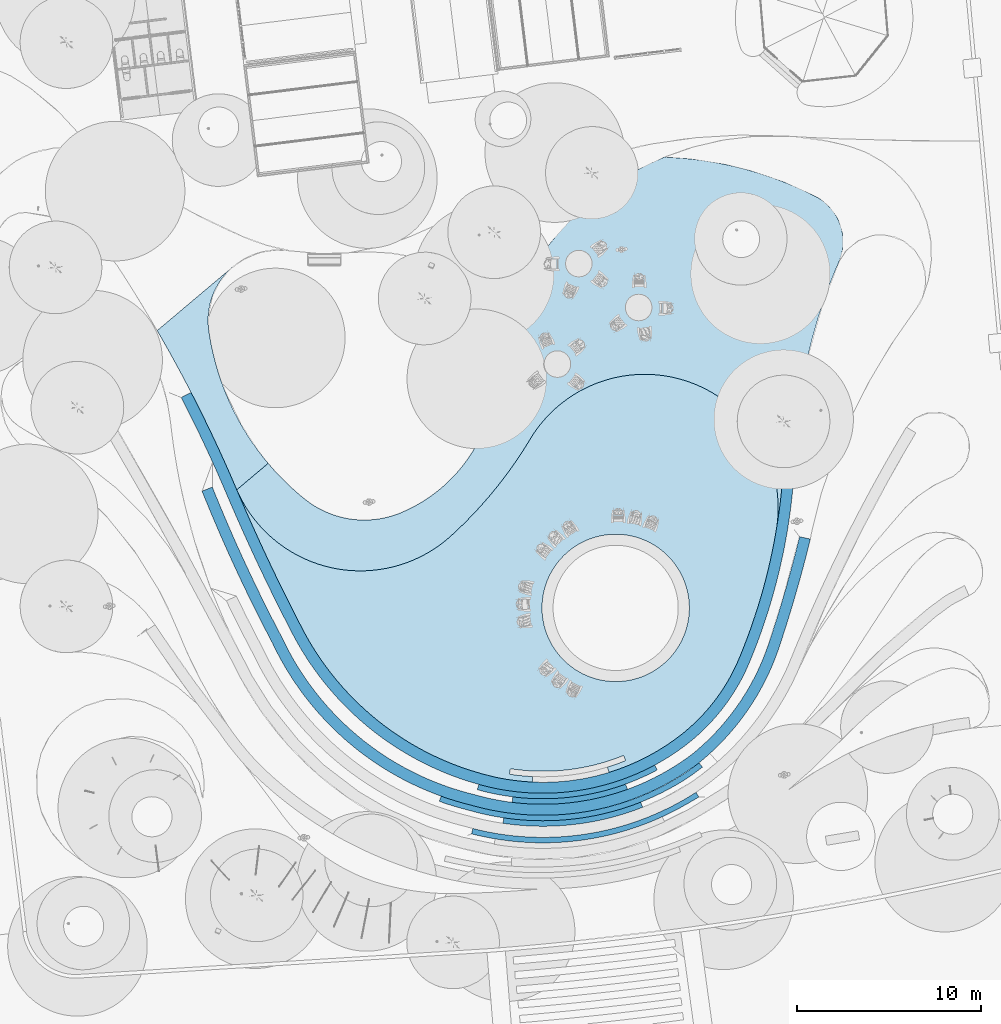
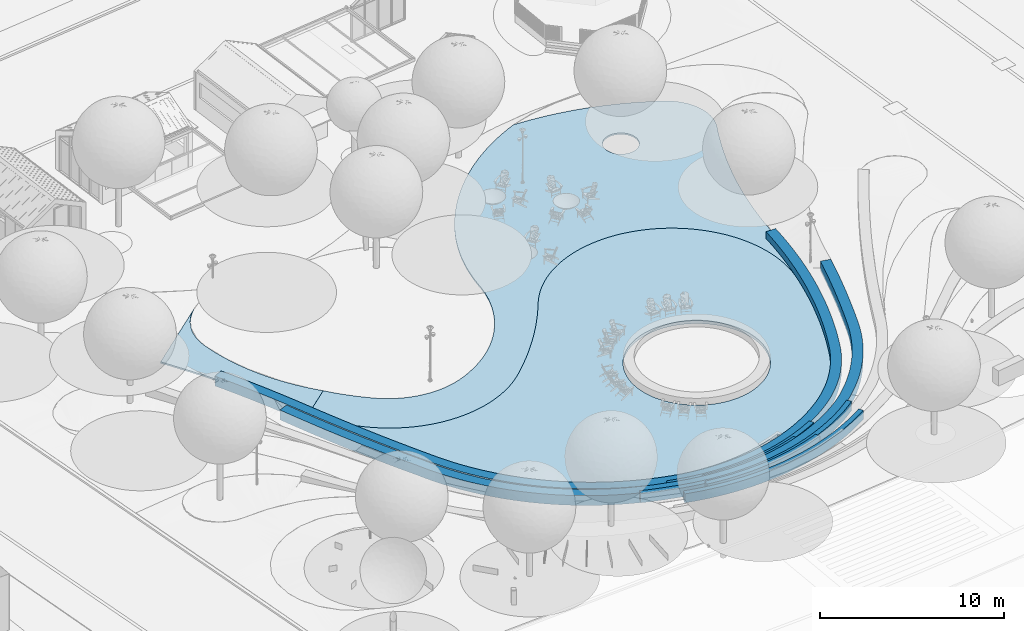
# One storey, part 11 of 75: 10 slabs, 2 openings.
"""IFC2X3 building model written with IfcOpenShell, lengths in metres."""

from ifc_helpers import new_model, entity, si_unit, converted_unit, derived_unit, direction, frame, frame_2d, origin, place, context, subcontext, project, spatial, polyline, circle_curve, ellipse_curve, parameter, trimmed, segment, composite_curve, circle, outline, extrude, material, layer, layer_set, layer_usage, type_object, element, save


model = new_model("IFC2X3")

# Units and contexts
model_context = context("Model", 3, precision=1e-05, world=origin(), true_north=direction((6.123031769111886e-17, 1.0)))
body_context = subcontext(model_context, "Body", "Model", "MODEL_VIEW")
ifc_project = project(units=[si_unit("LENGTHUNIT", "METRE"), si_unit("AREAUNIT", "SQUARE_METRE"), si_unit("VOLUMEUNIT", "CUBIC_METRE"), converted_unit("PLANEANGLEUNIT", "DEGREE", entity("IfcRatioMeasure", 0.017453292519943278), si_unit("PLANEANGLEUNIT", "RADIAN"), dimensions=[0, 0, 0, 0, 0, 0, 0]), si_unit("MASSUNIT", "GRAM", prefix="KILO"), derived_unit("MASSDENSITYUNIT", [(si_unit("MASSUNIT", "GRAM", prefix="KILO"), 1), (si_unit("LENGTHUNIT", "METRE"), -3)]), derived_unit("IONCONCENTRATIONUNIT", [(si_unit("MASSUNIT", "GRAM", prefix="KILO"), 1), (si_unit("LENGTHUNIT", "METRE"), -3)]), derived_unit("MOMENTOFINERTIAUNIT", [(si_unit("LENGTHUNIT", "METRE"), 4)]), si_unit("TIMEUNIT", "SECOND"), si_unit("FREQUENCYUNIT", "HERTZ"), si_unit("THERMODYNAMICTEMPERATUREUNIT", "DEGREE_CELSIUS"), derived_unit("THERMALTRANSMITTANCEUNIT", [(si_unit("MASSUNIT", "GRAM", prefix="KILO"), 1), (si_unit("THERMODYNAMICTEMPERATUREUNIT", "KELVIN"), -1), (si_unit("TIMEUNIT", "SECOND"), -3)]), derived_unit("THERMALCONDUCTANCEUNIT", [(si_unit("MASSUNIT", "GRAM", prefix="KILO"), 1), (si_unit("THERMODYNAMICTEMPERATUREUNIT", "KELVIN"), -1), (si_unit("TIMEUNIT", "SECOND"), -3), (si_unit("LENGTHUNIT", "METRE"), 1)]), derived_unit("VOLUMETRICFLOWRATEUNIT", [(si_unit("LENGTHUNIT", "METRE"), 3), (si_unit("TIMEUNIT", "SECOND"), -1)]), derived_unit("MASSFLOWRATEUNIT", [(si_unit("MASSUNIT", "GRAM", prefix="KILO"), 1), (si_unit("TIMEUNIT", "SECOND"), -1)]), derived_unit("ROTATIONALFREQUENCYUNIT", [(si_unit("TIMEUNIT", "SECOND"), -1)]), si_unit("ELECTRICCURRENTUNIT", "AMPERE"), si_unit("ELECTRICVOLTAGEUNIT", "VOLT"), si_unit("POWERUNIT", "WATT"), si_unit("FORCEUNIT", "NEWTON", prefix="KILO"), si_unit("ILLUMINANCEUNIT", "LUX"), si_unit("LUMINOUSFLUXUNIT", "LUMEN"), si_unit("LUMINOUSINTENSITYUNIT", "CANDELA"), derived_unit("USERDEFINED", [(si_unit("MASSUNIT", "GRAM", prefix="KILO"), -1), (si_unit("LENGTHUNIT", "METRE"), -2), (si_unit("TIMEUNIT", "SECOND"), 3), (si_unit("LUMINOUSFLUXUNIT", "LUMEN"), 1)]), derived_unit("USERDEFINED", [(si_unit("MASSUNIT", "GRAM", prefix="KILO"), 1), (si_unit("TIMEUNIT", "SECOND"), -3), (si_unit("LENGTHUNIT", "METRE"), 3), (si_unit("ELECTRICCURRENTUNIT", "AMPERE"), -2)]), derived_unit("SOUNDPOWERUNIT", [(si_unit("MASSUNIT", "GRAM", prefix="KILO"), 1), (si_unit("TIMEUNIT", "SECOND"), -3), (si_unit("LENGTHUNIT", "METRE"), 2)]), derived_unit("SOUNDPRESSUREUNIT", [(si_unit("MASSUNIT", "GRAM", prefix="KILO"), 1), (si_unit("LENGTHUNIT", "METRE"), -1), (si_unit("TIMEUNIT", "SECOND"), -2)]), derived_unit("LINEARVELOCITYUNIT", [(si_unit("LENGTHUNIT", "METRE"), 1), (si_unit("TIMEUNIT", "SECOND"), -1)]), si_unit("PRESSUREUNIT", "PASCAL"), derived_unit("USERDEFINED", [(si_unit("MASSUNIT", "GRAM", prefix="KILO"), 1), (si_unit("LENGTHUNIT", "METRE"), -2), (si_unit("TIMEUNIT", "SECOND"), -2)]), derived_unit("LINEARFORCEUNIT", [(si_unit("MASSUNIT", "GRAM", prefix="KILO"), 1), (si_unit("TIMEUNIT", "SECOND"), -2)]), derived_unit("PLANARFORCEUNIT", [(si_unit("MASSUNIT", "GRAM", prefix="KILO"), 1), (si_unit("LENGTHUNIT", "METRE"), -1), (si_unit("TIMEUNIT", "SECOND"), -2)]), derived_unit("SPECIFICHEATCAPACITYUNIT", [(si_unit("THERMODYNAMICTEMPERATUREUNIT", "KELVIN"), -1), (si_unit("LENGTHUNIT", "METRE"), 2), (si_unit("TIMEUNIT", "SECOND"), -2)]), derived_unit("HEATINGVALUEUNIT", [(si_unit("LENGTHUNIT", "METRE"), 2), (si_unit("TIMEUNIT", "SECOND"), -2)]), derived_unit("VAPORPERMEABILITYUNIT", [(si_unit("LENGTHUNIT", "METRE"), -1), (si_unit("TIMEUNIT", "SECOND"), 1)]), derived_unit("DYNAMICVISCOSITYUNIT", [(si_unit("MASSUNIT", "GRAM", prefix="KILO"), 1), (si_unit("TIMEUNIT", "SECOND"), -1), (si_unit("LENGTHUNIT", "METRE"), -1)]), derived_unit("THERMALEXPANSIONCOEFFICIENTUNIT", [(si_unit("THERMODYNAMICTEMPERATUREUNIT", "KELVIN"), -1)]), derived_unit("MODULUSOFELASTICITYUNIT", [(si_unit("MASSUNIT", "GRAM", prefix="KILO"), 1), (si_unit("LENGTHUNIT", "METRE"), -1), (si_unit("TIMEUNIT", "SECOND"), -2)]), derived_unit("ISOTHERMALMOISTURECAPACITYUNIT", [(si_unit("LENGTHUNIT", "METRE"), 3), (si_unit("MASSUNIT", "GRAM", prefix="KILO"), -1)]), derived_unit("MOISTUREDIFFUSIVITYUNIT", [(si_unit("TIMEUNIT", "SECOND"), -1), (si_unit("LENGTHUNIT", "METRE"), 2)])], contexts=[model_context])

# Site, building, storey
site_placement = place(None, origin())
site = spatial("IfcSite", under=ifc_project, at=site_placement, Name="Default", CompositionType="ELEMENT")
building_placement = place(site_placement, origin())
building = spatial("IfcBuilding", under=site, at=building_placement, Name="Projeto", CompositionType="ELEMENT")
storey_placement = place(building_placement, origin())
storey = spatial("IfcBuildingStorey", under=building, at=storey_placement, Name="Nível 1", CompositionType="ELEMENT", Elevation=0.0)

# Slab, opening
ifc_material_1 = material(Name="Grama-esmeralda")
ifc_layer_1 = layer(ifc_material_1, 0.04)
ifc_material_2 = material(Name="JA_Solo")
ifc_layer_2 = layer(ifc_material_2, 0.16)
ifc_layer_set_1 = layer_set([ifc_layer_1, ifc_layer_2], Name="Piso:Zoysia japonica")
ifc_layer_usage_1 = layer_usage(ifc_layer_set_1, "AXIS3", "POSITIVE", 0.0)
slab_type_1 = type_object("IfcSlabType", Name="Piso:Zoysia japonica", PredefinedType="FLOOR", material=ifc_layer_set_1)
slab_1_placement = place(storey_placement, frame((-11.850127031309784, -9.999738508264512, -2.4499999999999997)))
slab_1 = element("IfcSlab", 1, at=slab_1_placement, inside=storey, type_object=slab_type_1, material=ifc_layer_usage_1, Name="Piso:Zoysia japonica", ObjectType="Piso:Zoysia japonica", PredefinedType="FLOOR", context=body_context, shape_type="SweptSolid", body=[
    extrude(outline(composite_curve([segment(trimmed(circle_curve(frame_2d((16.639981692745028, 7.871754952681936), x_axis=(-1.0, 0.0)), 31.684656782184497), [parameter(9.543661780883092)], [parameter(22.71125249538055)], True, "PARAMETER"), True, "CONTINUOUS"), segment(trimmed(circle_curve(frame_2d((-3.0176330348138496, -0.35573994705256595), x_axis=(-1.0, 0.0)), 10.3747180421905), [parameter(22.71125249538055)], [parameter(52.74487293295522)], True, "PARAMETER"), True, "CONTINUOUS"), segment(trimmed(circle_curve(frame_2d((-1.9332866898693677, 1.1035502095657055), x_axis=(-1.0, 0.0)), 12.19267937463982), [parameter(52.84036237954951)], [parameter(72.9146469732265)], True, "PARAMETER"), True, "CONTINUOUS"), segment(polyline([(-5.51544685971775, -10.551043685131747), (-5.427308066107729, -10.264283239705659)]), True, "CONTINUOUS"), segment(trimmed(circle_curve(frame_2d((-1.9332866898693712, 1.1035502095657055), x_axis=(-1.0, 0.0)), 11.892679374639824), [parameter(67.8337120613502)], [parameter(72.91464697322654)], True, "PARAMETER"), False, "CONTINUOUS"), segment(polyline([(-6.4203464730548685, -9.910173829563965), (-6.307157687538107, -9.632346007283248)]), True, "CONTINUOUS"), segment(trimmed(circle_curve(frame_2d((-1.933286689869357, 1.103550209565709), x_axis=(-1.0, 0.0)), 11.592679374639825), [parameter(67.83371206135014)], [parameter(98.81300573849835)], True, "PARAMETER"), True, "CONTINUOUS"), segment(polyline([(-0.15717050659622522, -10.35226169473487), (-0.1112074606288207, -10.648719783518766)]), True, "CONTINUOUS"), segment(trimmed(circle_curve(frame_2d((-1.9332866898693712, 1.1035502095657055), x_axis=(-1.0, 0.0)), 11.892679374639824), [parameter(92.74757328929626)], [parameter(98.81300573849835)], True, "PARAMETER"), False, "CONTINUOUS"), segment(polyline([(-1.363201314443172, -10.775457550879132), (-1.3488205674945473, -11.075112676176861)]), True, "CONTINUOUS"), segment(trimmed(circle_curve(frame_2d((-1.9332866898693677, 1.1035502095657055), x_axis=(-1.0, 0.0)), 12.19267937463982), [parameter(92.7475732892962)], [parameter(106.53200961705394)], True, "PARAMETER"), True, "CONTINUOUS"), segment(trimmed(circle_curve(frame_2d((-2.778103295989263, 4.512307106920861), x_axis=(-1.0, 0.0)), 15.701730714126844), [parameter(105.9478935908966)], [parameter(152.50265419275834)], True, "PARAMETER"), True, "CONTINUOUS"), segment(trimmed(circle_curve(frame_2d((-83.33529151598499, 46.44298205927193), x_axis=(-1.0, 0.0)), 106.51826046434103), [parameter(152.50265419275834)], [parameter(156.98796930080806)], True, "PARAMETER"), True, "CONTINUOUS"), segment(trimmed(circle_curve(frame_2d((7.989180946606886, 7.722558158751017), x_axis=(-1.0, 0.0)), 7.324636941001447), [parameter(47.61549531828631)], [parameter(156.5045093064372)], True, "PARAMETER"), False, "CONTINUOUS"), segment(trimmed(circle_curve(frame_2d((18.757359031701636, 19.521624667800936), x_axis=(-1.0, 0.0)), 23.29872939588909), [parameter(30.922731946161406)], [parameter(47.615495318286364)], True, "PARAMETER"), False, "CONTINUOUS"), segment(trimmed(circle_curve(frame_2d((-7.452594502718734, 3.8211642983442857), x_axis=(-1.0, 0.0)), 7.253948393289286), [parameter(210.9227319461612)], [parameter(9.543661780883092)], True, "PARAMETER"), True, "CONTINUOUS")], self_intersect=False)), frame((14.706542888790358, 11.075112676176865, 0.19999999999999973), z_axis=(0.0, 0.0, -1.0), x_axis=(-1.0, 0.0, 0.0)), (0.0, 0.0, 1.0), 0.19999999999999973),
])
opening_1_placement = place(slab_1_placement, origin())
element("IfcOpeningElement", 2, at=opening_1_placement, cuts=slab_1, Name="Piso:Zoysia japonica", ObjectType="Opening", context=body_context, shape_type="SweptSolid", body=[
    extrude(circle(Radius=4.0, at=frame_2d((0.0, -6.497202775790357e-15), x_axis=(1.0, 0.0))), frame((20.58601131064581, 9.460384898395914, 0.19999999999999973), z_axis=(0.0, 0.0, -1.0), x_axis=(1.0, 0.0, 0.0)), (0.0, 0.0, 1.0), 0.2),
])

# Slabs
ifc_material_3 = material(Name="cacao")
ifc_layer_3 = layer(ifc_material_3, 0.65)
ifc_layer_set_2 = layer_set([ifc_layer_3], Name="Piso:Banco de concreto")
ifc_layer_usage_2 = layer_usage(ifc_layer_set_2, "AXIS3", "POSITIVE", 0.0)
slab_type_2 = type_object("IfcSlabType", Name="Piso:Banco de concreto", PredefinedType="FLOOR", material=ifc_layer_set_2)
slab_2_placement = place(storey_placement, frame((-14.86650121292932, -10.613420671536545, -2.4499999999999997)))
element("IfcSlab", 3, at=slab_2_placement, inside=storey, type_object=slab_type_2, material=ifc_layer_usage_2, Name="Piso:Banco de concreto", ObjectType="Piso:Banco de concreto", PredefinedType="FLOOR", context=body_context, shape_type="SweptSolid", body=[
    extrude(outline(composite_curve([segment(trimmed(circle_curve(frame_2d((15.590078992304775, 8.67065615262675), x_axis=(-1.0, 0.0)), 32.28465678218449), [parameter(2.09422113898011)], [parameter(22.71125249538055)], True, "PARAMETER"), True, "CONTINUOUS"), segment(trimmed(circle_curve(frame_2d((-4.067535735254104, 0.4431612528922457), x_axis=(-1.0, 0.0)), 10.9747180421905), [parameter(22.71125249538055)], [parameter(52.74748853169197)], True, "PARAMETER"), True, "CONTINUOUS"), segment(trimmed(circle_curve(frame_2d((-2.9831893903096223, 1.9024514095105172), x_axis=(-1.0, 0.0)), 12.792679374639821), [parameter(52.838127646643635)], [parameter(106.51827536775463)], True, "PARAMETER"), True, "CONTINUOUS"), segment(trimmed(circle_curve(frame_2d((-3.828005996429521, 5.311208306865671), x_axis=(-1.0, 0.0)), 16.301730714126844), [parameter(105.95861482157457)], [parameter(152.50265419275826)], True, "PARAMETER"), True, "CONTINUOUS"), segment(trimmed(circle_curve(frame_2d((-84.38519421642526, 47.241883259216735), x_axis=(-1.0, 0.0)), 107.11826046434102), [parameter(152.50265419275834)], [parameter(156.98796930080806)], True, "PARAMETER"), True, "CONTINUOUS"), segment(trimmed(circle_curve(frame_2d((85.73518093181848, -25.01209273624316), x_axis=(-1.0, 0.0)), 77.71025218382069), [parameter(332.71205473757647)], [parameter(336.9879693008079)], True, "PARAMETER"), False, "CONTINUOUS"), segment(polyline([(16.673014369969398, 10.615150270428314), (16.13978614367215, 10.890227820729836)]), True, "CONTINUOUS"), segment(trimmed(circle_curve(frame_2d((85.73518093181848, -25.01209273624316), x_axis=(-1.0, 0.0)), 78.31025218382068), [parameter(332.71205473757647)], [parameter(336.9879693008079)], True, "PARAMETER"), True, "CONTINUOUS"), segment(trimmed(circle_curve(frame_2d((-84.38519421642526, 47.241883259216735), x_axis=(-1.0, 0.0)), 106.51826046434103), [parameter(152.50265419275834)], [parameter(156.98796930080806)], True, "PARAMETER"), False, "CONTINUOUS"), segment(trimmed(circle_curve(frame_2d((-3.828005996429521, 5.311208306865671), x_axis=(-1.0, 0.0)), 15.701730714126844), [parameter(105.9478935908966)], [parameter(152.50265419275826)], True, "PARAMETER"), False, "CONTINUOUS"), segment(trimmed(circle_curve(frame_2d((-2.9831893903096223, 1.9024514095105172), x_axis=(-1.0, 0.0)), 12.19267937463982), [parameter(52.8403623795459)], [parameter(106.53200961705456)], True, "PARAMETER"), False, "CONTINUOUS"), segment(trimmed(circle_curve(frame_2d((-4.067535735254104, 0.4431612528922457), x_axis=(-1.0, 0.0)), 10.3747180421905), [parameter(22.71125249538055)], [parameter(52.74487293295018)], True, "PARAMETER"), False, "CONTINUOUS"), segment(trimmed(circle_curve(frame_2d((15.590078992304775, 8.67065615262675), x_axis=(-1.0, 0.0)), 31.684656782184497), [parameter(2.133896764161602)], [parameter(22.71125249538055)], True, "PARAMETER"), False, "CONTINUOUS"), segment(polyline([(-16.0726057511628, 7.490880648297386), (-16.67301436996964, 7.490880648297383)]), True, "CONTINUOUS")], self_intersect=False)), frame((16.67301436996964, 10.889893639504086, 0.6500000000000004), z_axis=(0.0, 0.0, -1.0), x_axis=(-1.0, 0.0, 0.0)), (0.0, 0.0, 1.0), 0.6500000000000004),
])
slab_3_placement = place(storey_placement, frame((-13.736134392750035, -11.805471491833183, -2.0)))
element("IfcSlab", 4, at=slab_3_placement, inside=storey, type_object=slab_type_2, material=ifc_layer_usage_2, Name="Piso:Banco de concreto", ObjectType="Piso:Banco de concreto", PredefinedType="FLOOR", context=body_context, shape_type="SweptSolid", body=[
    extrude(outline(composite_curve([segment(trimmed(circle_curve(frame_2d((1.9878605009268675, 5.147264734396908), x_axis=(1.0, 0.0)), 14.063704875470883), [parameter(253.80456530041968)], [parameter(307.1376653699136)], True, "PARAMETER"), True, "CONTINUOUS"), segment(trimmed(circle_curve(frame_2d((1.8936449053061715, 4.532702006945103), x_axis=(1.0, 0.0)), 13.637963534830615), [parameter(309.012316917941)], [parameter(341.4360066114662)], True, "PARAMETER"), True, "CONTINUOUS"), segment(trimmed(circle_curve(frame_2d((-52.562036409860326, 22.82097389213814), x_axis=(1.0, 0.0)), 71.08256394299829), [parameter(341.4360066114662)], [parameter(346.3867847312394)], True, "PARAMETER"), True, "CONTINUOUS"), segment(polyline([(16.523586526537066, 6.090534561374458), (15.93809697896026, 6.22207194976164)]), True, "CONTINUOUS"), segment(trimmed(circle_curve(frame_2d((-52.562036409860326, 22.82097389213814), x_axis=(1.0, 0.0)), 70.4825639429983), [parameter(341.43600661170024)], [parameter(346.3786862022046)], True, "PARAMETER"), False, "CONTINUOUS"), segment(trimmed(circle_curve(frame_2d((1.89364490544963, 4.532702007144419), x_axis=(1.0, 0.0)), 13.037963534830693), [parameter(309.055441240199)], [parameter(341.43600661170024)], True, "PARAMETER"), False, "CONTINUOUS"), segment(trimmed(circle_curve(frame_2d((1.9878605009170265, 5.1472647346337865), x_axis=(1.0, 0.0)), 13.463704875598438), [parameter(253.75099358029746)], [parameter(307.09587562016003)], True, "PARAMETER"), False, "CONTINUOUS"), segment(trimmed(circle_curve(frame_2d((1.9174702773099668, 7.339025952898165), x_axis=(1.0, 0.0)), 15.563119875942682), [parameter(205.27045879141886)], [parameter(256.2583879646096)], True, "PARAMETER"), False, "CONTINUOUS"), segment(trimmed(circle_curve(frame_2d((64.97292483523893, 41.43861891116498), x_axis=(1.0, 0.0)), 87.22923233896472), [parameter(201.89061394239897)], [parameter(207.84516399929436)], True, "PARAMETER"), False, "CONTINUOUS"), segment(polyline([(-15.966848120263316, 8.916439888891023), (-16.523586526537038, 8.692738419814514)]), True, "CONTINUOUS"), segment(trimmed(circle_curve(frame_2d((64.97292483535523, 41.43861891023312), x_axis=(1.0, 0.0)), 87.82923233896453), [parameter(201.8906139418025)], [parameter(207.83643620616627)], True, "PARAMETER"), True, "CONTINUOUS"), segment(trimmed(circle_curve(frame_2d((1.9174702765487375, 7.339025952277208), x_axis=(1.0, 0.0)), 16.163119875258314), [parameter(205.31862518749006)], [parameter(256.2119089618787)], True, "PARAMETER"), True, "CONTINUOUS")], self_intersect=False)), frame((16.523586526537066, 8.915355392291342, 0.65)), (0.0, 0.0, -1.0), 0.65),
])
ifc_material_4 = material(Name=".Concreto_Laje")
ifc_layer_4 = layer(ifc_material_4, 0.5999999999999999)
ifc_layer_set_3 = layer_set([ifc_layer_4], Name="Piso:Degrau de concreto")
ifc_layer_usage_3 = layer_usage(ifc_layer_set_3, "AXIS3", "POSITIVE", 0.0)
slab_type_3 = type_object("IfcSlabType", Name="Piso:Degrau de concreto", PredefinedType="FLOOR", material=ifc_layer_set_3)
slab_4_placement = place(storey_placement, frame((0.9048446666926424, -13.30401906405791, -1.35)))
element("IfcSlab", 5, at=slab_4_placement, inside=storey, type_object=slab_type_3, material=ifc_layer_usage_3, Name="Piso:Degrau de concreto", ObjectType="Piso:Degrau de concreto", PredefinedType="FLOOR", context=body_context, shape_type="SweptSolid", body=[
    extrude(outline(composite_curve([segment(trimmed(circle_curve(frame_2d((11.104937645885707, 29.93038368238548), x_axis=(-1.0, 0.0)), 33.59875439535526), [parameter(59.04820124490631)], [parameter(60.39933308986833)], True, "PARAMETER"), True, "CONTINUOUS"), segment(trimmed(circle_curve(frame_2d((2.304409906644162, 14.210455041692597), x_axis=(-1.0, 0.0)), 15.583817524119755), [parameter(59.984142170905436)], [parameter(104.38298718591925)], True, "PARAMETER"), True, "CONTINUOUS"), segment(polyline([(6.175465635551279, -0.8849182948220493), (6.101039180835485, -0.5946886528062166)]), True, "CONTINUOUS"), segment(trimmed(circle_curve(frame_2d((2.2976329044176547, 14.295630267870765), x_axis=(-1.0, 0.0)), 15.368392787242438), [parameter(57.22829729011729)], [parameter(104.32858170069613)], True, "PARAMETER"), False, "CONTINUOUS"), segment(polyline([(-6.021170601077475, 1.3733624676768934), (-6.175465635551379, 1.116082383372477)]), True, "CONTINUOUS")], self_intersect=False)), frame((6.17546563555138, 1.3733327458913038, 0.6000000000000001), z_axis=(0.0, 0.0, -1.0), x_axis=(-1.0, 0.0, 0.0)), (0.0, 0.0, 1.0), 0.6000000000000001),
])
slab_5_placement = place(storey_placement, frame((2.6121963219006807, -12.403417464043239, -1.65)))
element("IfcSlab", 6, at=slab_5_placement, inside=storey, type_object=slab_type_3, material=ifc_layer_usage_3, Name="Piso:Degrau de concreto", ObjectType="Piso:Degrau de concreto", PredefinedType="FLOOR", context=body_context, shape_type="SweptSolid", body=[
    extrude(outline(composite_curve([segment(trimmed(circle_curve(frame_2d((-1.645936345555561, 14.04363036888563), x_axis=(1.0, 0.0)), 14.468392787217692), [parameter(261.5487419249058)], [parameter(291.5481105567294)], True, "PARAMETER"), False, "CONTINUOUS"), segment(polyline([(-3.7723270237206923, -0.2676537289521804), (-3.816417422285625, -0.5643961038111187)]), True, "CONTINUOUS"), segment(trimmed(circle_curve(frame_2d((-1.6459363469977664, 14.043630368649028), x_axis=(1.0, 0.0)), 14.768392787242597), [parameter(261.5487419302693)], [parameter(291.5481105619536)], True, "PARAMETER"), True, "CONTINUOUS"), segment(polyline([(3.778233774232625, 0.30740803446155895), (3.668049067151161, 0.5864408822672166)]), True, "CONTINUOUS")], self_intersect=False)), frame((3.8164174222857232, 0.7247310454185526, 0.5999999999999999)), (0.0, 0.0, -1.0), 0.5999999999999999),
])
slab_6_placement = place(storey_placement, frame((-0.8474208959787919, -12.101994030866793, -1.7999999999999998)))
element("IfcSlab", 7, at=slab_6_placement, inside=storey, type_object=slab_type_3, material=ifc_layer_usage_3, Name="Piso:Degrau de concreto", ObjectType="Piso:Degrau de concreto", PredefinedType="FLOOR", context=body_context, shape_type="SweptSolid", body=[
    extrude(outline(composite_curve([segment(trimmed(circle_curve(frame_2d((-1.59694588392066, 14.977762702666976), x_axis=(1.0, 0.0)), 16.463119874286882), [parameter(250.29000531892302)], [parameter(256.2703424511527)], True, "PARAMETER"), True, "CONTINUOUS"), segment(trimmed(circle_curve(frame_2d((-1.5191908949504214, 12.893796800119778), x_axis=(1.0, 0.0)), 14.468392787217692), [parameter(254.01195097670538)], [parameter(302.73359907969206)], True, "PARAMETER"), True, "CONTINUOUS"), segment(trimmed(circle_curve(frame_2d((-1.931539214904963, 12.917426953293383), x_axis=(1.0, 0.0)), 14.715033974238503), [parameter(304.03454299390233)], [parameter(308.1055643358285)], True, "PARAMETER"), True, "CONTINUOUS"), segment(polyline([(7.149289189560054, 1.3385332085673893), (6.964155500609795, 1.5745957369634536)]), True, "CONTINUOUS"), segment(trimmed(circle_curve(frame_2d((-1.931539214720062, 12.917426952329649), x_axis=(1.0, 0.0)), 14.415033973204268), [parameter(304.04808216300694)], [parameter(308.10556433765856)], True, "PARAMETER"), False, "CONTINUOUS"), segment(trimmed(circle_curve(frame_2d((-1.5191908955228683, 12.89379680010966), x_axis=(1.0, 0.0)), 14.168392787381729), [parameter(253.98805364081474)], [parameter(302.7198266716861)], True, "PARAMETER"), False, "CONTINUOUS"), segment(trimmed(circle_curve(frame_2d((-1.5969458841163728, 14.97776270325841), x_axis=(1.0, 0.0)), 16.163119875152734), [parameter(250.29000532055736)], [parameter(256.29131742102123)], True, "PARAMETER"), False, "CONTINUOUS"), segment(polyline([(-7.048111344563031, -0.23838790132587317), (-7.149289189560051, -0.520811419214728)]), True, "CONTINUOUS")], self_intersect=False)), frame((7.149289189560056, 1.5731411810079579, 0.5999999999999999)), (0.0, 0.0, -1.0), 0.5999999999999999),
])
slab_7_placement = place(storey_placement, frame((1.2192939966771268, -10.906526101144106, -2.2499999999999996)))
element("IfcSlab", 8, at=slab_7_placement, inside=storey, type_object=slab_type_3, material=ifc_layer_usage_3, Name="Piso:Degrau de concreto", ObjectType="Piso:Degrau de concreto", PredefinedType="FLOOR", context=body_context, shape_type="SweptSolid", body=[
    extrude(outline(composite_curve([segment(trimmed(circle_curve(frame_2d((1.3325311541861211, 12.250118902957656), x_axis=(-1.0, 0.0)), 13.163704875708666), [parameter(61.7972236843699)], [parameter(105.67248664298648)], True, "PARAMETER"), True, "CONTINUOUS"), segment(polyline([(4.888549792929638, -0.42418018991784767), (4.807508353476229, -0.13533371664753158)]), True, "CONTINUOUS"), segment(trimmed(circle_curve(frame_2d((1.3325311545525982, 12.250118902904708), x_axis=(-1.0, 0.0)), 12.86370487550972), [parameter(61.79722368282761)], [parameter(105.67248664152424)], True, "PARAMETER"), False, "CONTINUOUS"), segment(polyline([(-4.74677175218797, 0.9135859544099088), (-4.888549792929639, 0.6492017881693)]), True, "CONTINUOUS")], self_intersect=False)), frame((4.88854979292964, 0.9135558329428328, 0.5999999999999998), z_axis=(0.0, 0.0, -1.0), x_axis=(-1.0, 0.0, 0.0)), (0.0, 0.0, 1.0), 0.5999999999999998),
])
slab_8_placement = place(storey_placement, frame((3.1120872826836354, -11.206339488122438, -2.0999999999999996)))
element("IfcSlab", 9, at=slab_8_placement, inside=storey, type_object=slab_type_3, material=ifc_layer_usage_3, Name="Piso:Degrau de concreto", ObjectType="Piso:Degrau de concreto", PredefinedType="FLOOR", context=body_context, shape_type="SweptSolid", body=[
    extrude(outline(composite_curve([segment(trimmed(circle_curve(frame_2d((1.4694749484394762, 12.917247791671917), x_axis=(-1.0, 0.0)), 13.463704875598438), [parameter(70.01215009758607)], [parameter(97.09610415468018)], True, "PARAMETER"), True, "CONTINUOUS"), segment(polyline([(3.132700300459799, -0.4433296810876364), (3.0956400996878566, -0.14562757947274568)]), True, "CONTINUOUS"), segment(trimmed(circle_curve(frame_2d((1.4694749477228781, 12.917247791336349), x_axis=(-1.0, 0.0)), 13.163704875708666), [parameter(70.01215010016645)], [parameter(97.09610415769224)], True, "PARAMETER"), False, "CONTINUOUS"), segment(polyline([(-3.030154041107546, 0.5464569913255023), (-3.1327003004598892, 0.2645274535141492)]), True, "CONTINUOUS")], self_intersect=False)), frame((3.1327003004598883, 0.5462403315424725, 0.5999999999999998), z_axis=(0.0, 0.0, -1.0), x_axis=(-1.0, 0.0, 0.0)), (0.0, 0.0, 1.0), 0.5999999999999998),
])
ifc_layer_5 = layer(ifc_material_3, 0.1)
ifc_layer_set_4 = layer_set([ifc_layer_5], Name="Piso:Piso cacão")
ifc_layer_usage_4 = layer_usage(ifc_layer_set_4, "AXIS3", "POSITIVE", 0.0)
slab_type_4 = type_object("IfcSlabType", Name="Piso:Piso cacão", PredefinedType="FLOOR", material=ifc_layer_set_4)
slab_9_placement = place(storey_placement, frame((-16.173820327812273, 5.8777688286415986, -2.700069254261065)))
element("IfcSlab", 10, at=slab_9_placement, inside=storey, type_object=slab_type_4, material=ifc_layer_usage_4, Name="Piso:Piso cacão", ObjectType="Piso:Piso cacão", PredefinedType="FLOOR", context=body_context, shape_type="SweptSolid", body=[
    extrude(outline(composite_curve([segment(polyline([(2.047735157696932, 1.72378085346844), (-2.047735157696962, -1.7237808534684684)]), True, "CONTINUOUS"), segment(trimmed(ellipse_curve(frame_2d((-69.8220471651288, -40.95890928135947), x_axis=(0.7650267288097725, 0.6439985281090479)), 78.31025218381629, 78.36448537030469), [parameter(347.17777158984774)], [parameter(349.98308332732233)], True, "PARAMETER"), False, "CONTINUOUS"), segment(trimmed(ellipse_curve(frame_2d((-69.82204716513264, -40.9589092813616), x_axis=(0.7650267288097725, 0.6439985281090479)), 78.31025218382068, 78.3644853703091), [parameter(342.9018570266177)], [parameter(347.17777158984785)], True, "PARAMETER"), False, "CONTINUOUS"), segment(polyline([(2.2772002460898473, -10.382306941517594), (3.9850078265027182, -8.944676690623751)]), True, "CONTINUOUS"), segment(trimmed(ellipse_curve(frame_2d((14.94086054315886, 0.277946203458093), x_axis=(0.7650267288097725, 0.6439985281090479)), 14.32087573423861, 14.330793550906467), [parameter(147.9400697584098)], [parameter(179.99999999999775)], True, "PARAMETER"), False, "CONTINUOUS"), segment(trimmed(ellipse_curve(frame_2d((4.559762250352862, -1.18339687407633), x_axis=(0.7650267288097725, 0.6439985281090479)), 3.839471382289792, 3.8421303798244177), [parameter(90.73944216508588)], [parameter(147.9400697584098)], True, "PARAMETER"), False, "CONTINUOUS")], self_intersect=False)), frame((2.0471470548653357, 10.37654931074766, 0.10006925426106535), z_axis=(-0.023964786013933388, 0.02844884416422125, 0.9993079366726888), x_axis=(0.9997128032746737, 0.0006819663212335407, 0.02395508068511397)), (-0.02395508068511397, 0.028457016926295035, -0.9993079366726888), 0.10006925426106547),
])

# Slab, opening
slab_10_placement = place(storey_placement, frame((-11.850127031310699, 1.473351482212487, -2.35)))
slab_10 = element("IfcSlab", 11, at=slab_10_placement, inside=storey, type_object=slab_type_4, material=ifc_layer_usage_4, Name="Piso:Piso cacão", ObjectType="Piso:Piso cacão", PredefinedType="FLOOR", context=body_context, shape_type="SweptSolid", body=[
    extrude(outline(composite_curve([segment(trimmed(circle_curve(frame_2d((-12.630716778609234, -2.9906930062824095), x_axis=(-1.0, 0.0)), 15.392653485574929), [parameter(209.05229773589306)], [parameter(247.58453155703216)], True, "PARAMETER"), True, "CONTINUOUS"), segment(trimmed(circle_curve(frame_2d((-6.106055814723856, -8.156437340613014), x_axis=(-1.0, 0.0)), 19.406438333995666), [parameter(271.9345948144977)], [parameter(297.1602928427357)], True, "PARAMETER"), True, "CONTINUOUS"), segment(trimmed(circle_curve(frame_2d((-13.69961963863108, 6.64426068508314), x_axis=(-1.0, 0.0)), 2.7714488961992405), [parameter(297.1602928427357)], [parameter(23.51196079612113)], True, "PARAMETER"), True, "CONTINUOUS"), segment(trimmed(circle_curve(frame_2d((-42.767435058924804, -6.002001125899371), x_axis=(-1.0, 0.0)), 28.928169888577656), [parameter(182.09422113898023)], [parameter(203.51196079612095)], True, "PARAMETER"), False, "CONTINUOUS"), segment(polyline([(-13.858586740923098, -4.944881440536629), (-13.25817812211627, -4.9448814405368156)]), True, "CONTINUOUS"), segment(trimmed(circle_curve(frame_2d((18.404506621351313, -3.765105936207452), x_axis=(-1.0, 0.0)), 31.684656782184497), [parameter(2.133896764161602)], [parameter(9.543661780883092)], True, "PARAMETER"), True, "CONTINUOUS"), segment(trimmed(circle_curve(frame_2d((-5.6880695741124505, -7.8156965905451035), x_axis=(-1.0, 0.0)), 7.253948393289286), [parameter(210.92273194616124)], [parameter(9.543661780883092)], True, "PARAMETER"), False, "CONTINUOUS"), segment(trimmed(circle_curve(frame_2d((20.521883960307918, 7.884763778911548), x_axis=(-1.0, 0.0)), 23.29872939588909), [parameter(30.922731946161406)], [parameter(47.615495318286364)], True, "PARAMETER"), True, "CONTINUOUS"), segment(trimmed(circle_curve(frame_2d((9.753705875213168, -3.914302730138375), x_axis=(-1.0, 0.0)), 7.324636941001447), [parameter(47.615495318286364)], [parameter(156.50450930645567)], True, "PARAMETER"), True, "CONTINUOUS"), segment(polyline([(16.471067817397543, -6.834466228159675), (14.763750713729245, -5.396253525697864)]), True, "CONTINUOUS"), segment(trimmed(circle_curve(frame_2d((3.811044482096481, 3.830105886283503), x_axis=(-1.0, 0.0)), 14.320875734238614), [parameter(128.70592228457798)], [parameter(139.88982632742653)], True, "PARAMETER"), False, "CONTINUOUS"), segment(trimmed(circle_curve(frame_2d((9.542233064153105, -3.3220716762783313), x_axis=(-1.0, 0.0)), 5.155715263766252), [parameter(67.57839131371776)], [parameter(128.7059222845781)], True, "PARAMETER"), False, "CONTINUOUS"), segment(trimmed(circle_curve(frame_2d((10.755960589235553, -0.38049731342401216), x_axis=(-1.0, 0.0)), 8.337852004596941), [parameter(3.967959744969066)], [parameter(67.57839131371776)], True, "PARAMETER"), False, "CONTINUOUS"), segment(trimmed(circle_curve(frame_2d((-10.598410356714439, -1.8617409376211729), x_axis=(-1.0, 0.0)), 13.067830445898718), [parameter(183.96795974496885)], [parameter(209.05229773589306)], True, "PARAMETER"), True, "CONTINUOUS")], self_intersect=False)), frame((16.471067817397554, 11.238883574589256, 0.1), z_axis=(0.0, 0.0, -1.0), x_axis=(-1.0, 0.0, 0.0)), (0.0, 0.0, 1.0), 0.1),
])
opening_2_placement = place(slab_10_placement, origin())
element("IfcOpeningElement", 12, at=opening_2_placement, cuts=slab_10, Name="Piso:Piso cacão", ObjectType="Opening", context=body_context, shape_type="SweptSolid", body=[
    extrude(circle(Radius=0.9999999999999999, at=frame_2d((0.0, -2.1657342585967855e-15), x_axis=(1.0, 0.0))), frame((27.402734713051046, 18.02230818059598, 0.1), z_axis=(0.0, 0.0, -1.0), x_axis=(1.0, 0.0, 0.0)), (0.0, 0.0, 1.0), 0.1),
])

save(model, "model.ifc")
